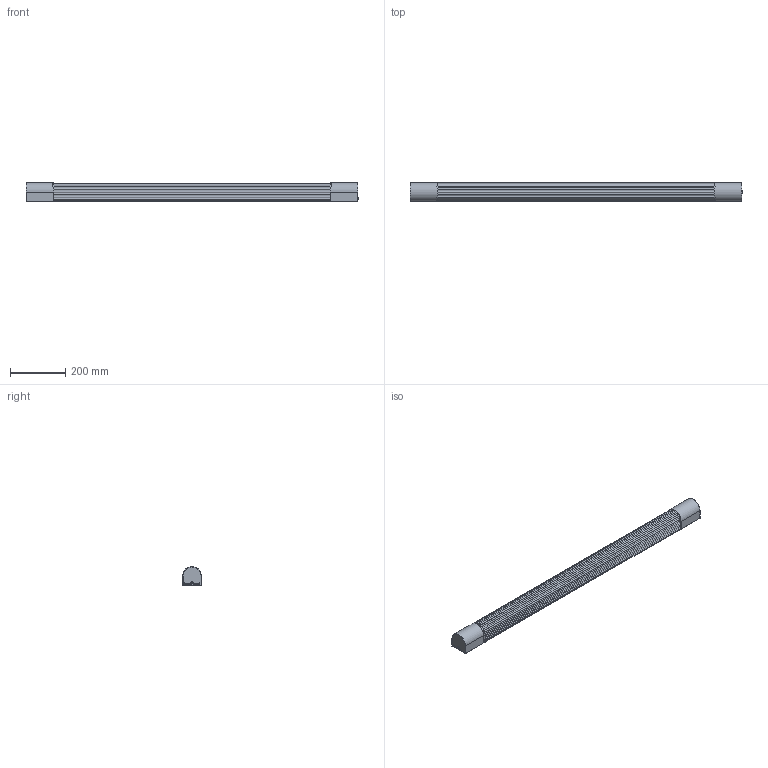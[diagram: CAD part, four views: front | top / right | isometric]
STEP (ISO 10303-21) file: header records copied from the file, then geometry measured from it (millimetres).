
FILE_DESCRIPTION(/* description */ (''),/* implementation_level */ '2;1');
FILE_NAME(/* name */ '62836.step',/* time_stamp */ '2024-10-15T09:34:53+02:00',/* author */ ('RenataManzini'),/* organization */ (''),/* preprocessor_version */ 'ST-DEVELOPER v20',/* originating_system */ 'AutoCAD Mechanical',/* authorisation */ '');
FILE_SCHEMA (('AUTOMOTIVE_DESIGN { 1 0 10303 214 3 1 1 }'));
Length unit declared in the file: millimetre
Products named in the file (2): Product; Kiva_1200 - Lamp Holder-712401-_3D_
Assembly tree (1 placements, depth 2):
  Product
    Kiva_1200 - Lamp Holder-712401-_3D_
Bounding box: 1200.02 x 68 x 67.2 mm (x, y, z)
Volume: 762426.9 mm3; surface area: 706652.7 mm2
Topology: 8 solids, 8 shells, 148 faces, 387 edges, 257 vertices
Faces by surface type: plane 72, cylinder 64, torus 6, cone 6
Entity records: 4888 total; most frequent: CARTESIAN_POINT 1030, DIRECTION 808, ORIENTED_EDGE 768, EDGE_CURVE 384, AXIS2_PLACEMENT_3D 288, VERTEX_POINT 252, LINE 232, VECTOR 232
